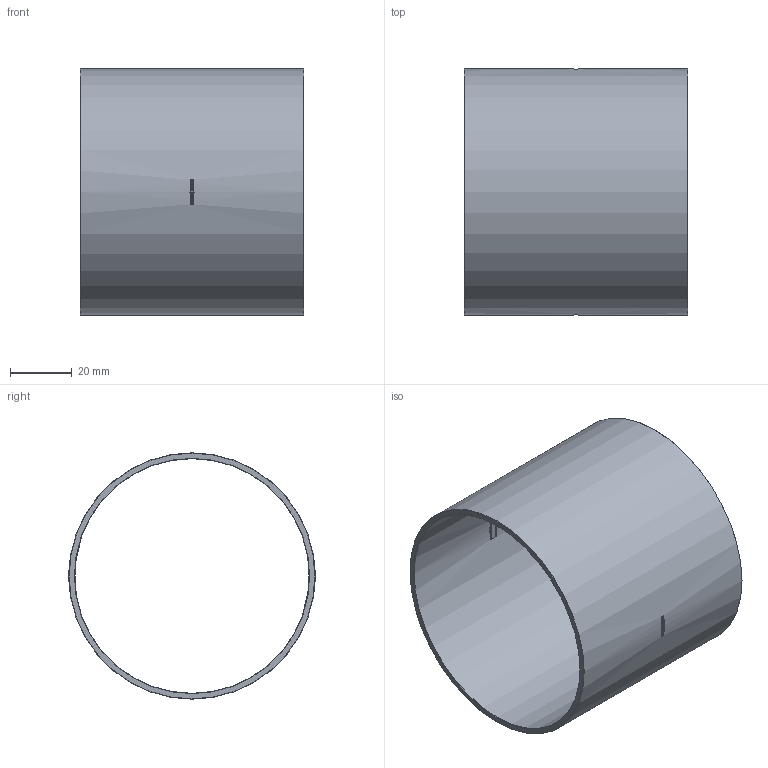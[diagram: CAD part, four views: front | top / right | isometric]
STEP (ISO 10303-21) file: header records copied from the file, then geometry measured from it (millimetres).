
FILE_DESCRIPTION((''),'2;1');
FILE_NAME('G:\SANHA-TERNAT\Technik\Management\Bouwmaten\z-maattekeningen 3D\imate 5000s\15270..._\1527076.stp','2009-10-19T09:07:52',('vdvijverd'),(''),'Autodesk Inventor 2009','Autodesk Inventor 2009','');
FILE_SCHEMA(('AUTOMOTIVE_DESIGN { 1 0 10303 214 1 1 1 1 }'));
Length unit declared in the file: millimetre
Products named in the file (1): 1527076
Bounding box: 72.5 x 79.8 x 79.8 mm (x, y, z)
Volume: 33710.1 mm3; surface area: 36361.2 mm2
Topology: 1 solids, 1 shells, 36 faces, 96 edges, 64 vertices
Faces by surface type: bspline 14, cylinder 10, plane 8, cone 4
Full cylindrical faces by diameter (mm): 76 x1, 79.8 x1
Entity records: 1446 total; most frequent: CARTESIAN_POINT 635, ORIENTED_EDGE 176, DIRECTION 126, EDGE_CURVE 88, VERTEX_POINT 64, EDGE_LOOP 48, AXIS2_PLACEMENT_3D 47, FACE_OUTER_BOUND 36
